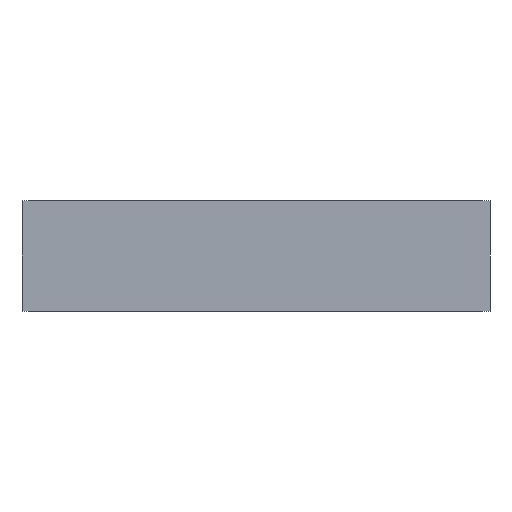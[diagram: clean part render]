
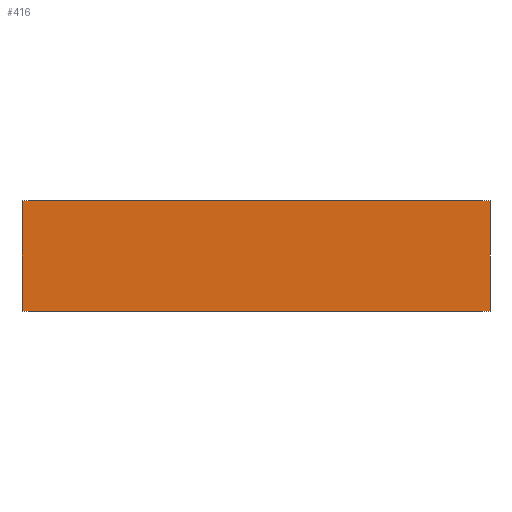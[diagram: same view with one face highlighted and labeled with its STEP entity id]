
A CAD part, front view. The second image highlights one B-rep face of the part: STEP entity #416.
In plain terms, the highlighted planar face has unit normal (0, -1, 0).
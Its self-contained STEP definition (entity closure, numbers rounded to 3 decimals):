
#84 = ORIENTED_EDGE ( 'NONE', *, *, #467, .F. ) ;
#85 = ORIENTED_EDGE ( 'NONE', *, *, #450, .T. ) ;
#89 = ORIENTED_EDGE ( 'NONE', *, *, #495, .T. ) ;
#140 = ORIENTED_EDGE ( 'NONE', *, *, #514, .F. ) ;
#209 = EDGE_LOOP ( 'NONE', ( #89, #84, #140, #85 ) ) ;
#222 = FACE_OUTER_BOUND ( 'NONE', #209, .T. ) ;
#251 = LINE ( 'NONE', #744, #258 ) ;
#258 = VECTOR ( 'NONE', #747, 1000. ) ;
#277 = LINE ( 'NONE', #778, #289 ) ;
#289 = VECTOR ( 'NONE', #781, 1000. ) ;
#319 = LINE ( 'NONE', #810, #320 ) ;
#320 = VECTOR ( 'NONE', #811, 1000. ) ;
#340 = LINE ( 'NONE', #832, #341 ) ;
#341 = VECTOR ( 'NONE', #833, 1000. ) ;
#416 = ADVANCED_FACE ( 'NONE', ( #222 ), #653, .F. ) ;
#450 = EDGE_CURVE ( 'NONE', #598, #595, #251, .T. ) ;
#467 = EDGE_CURVE ( 'NONE', #580, #579, #277, .T. ) ;
#495 = EDGE_CURVE ( 'NONE', #595, #579, #319, .T. ) ;
#514 = EDGE_CURVE ( 'NONE', #598, #580, #340, .T. ) ;
#553 = AXIS2_PLACEMENT_3D ( 'NONE', #642, #646, #563 ) ;
#563 = DIRECTION ( 'NONE',  ( -1., 0., 0. ) ) ;
#579 = VERTEX_POINT ( 'NONE', #908 ) ;
#580 = VERTEX_POINT ( 'NONE', #909 ) ;
#595 = VERTEX_POINT ( 'NONE', #924 ) ;
#598 = VERTEX_POINT ( 'NONE', #927 ) ;
#642 = CARTESIAN_POINT ( 'NONE',  ( -254., 0., 120. ) ) ;
#646 = DIRECTION ( 'NONE',  ( 0., 1., 0. ) ) ;
#653 = PLANE ( 'NONE',  #553 ) ;
#744 = CARTESIAN_POINT ( 'NONE',  ( -254., 0., 120. ) ) ;
#747 = DIRECTION ( 'NONE',  ( 0., 0., -1. ) ) ;
#778 = CARTESIAN_POINT ( 'NONE',  ( 254., 0., 120. ) ) ;
#781 = DIRECTION ( 'NONE',  ( 0., 0., -1. ) ) ;
#810 = CARTESIAN_POINT ( 'NONE',  ( -254., 0., 0. ) ) ;
#811 = DIRECTION ( 'NONE',  ( 1., 0., 0. ) ) ;
#832 = CARTESIAN_POINT ( 'NONE',  ( -254., 0., 120. ) ) ;
#833 = DIRECTION ( 'NONE',  ( 1., 0., 0. ) ) ;
#908 = CARTESIAN_POINT ( 'NONE',  ( 254., 0., 0. ) ) ;
#909 = CARTESIAN_POINT ( 'NONE',  ( 254., 0., 120. ) ) ;
#924 = CARTESIAN_POINT ( 'NONE',  ( -254., 0., 0. ) ) ;
#927 = CARTESIAN_POINT ( 'NONE',  ( -254., 0., 120. ) ) ;
